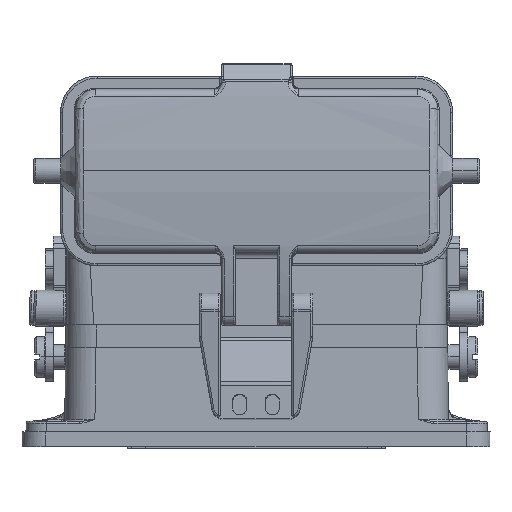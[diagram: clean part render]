
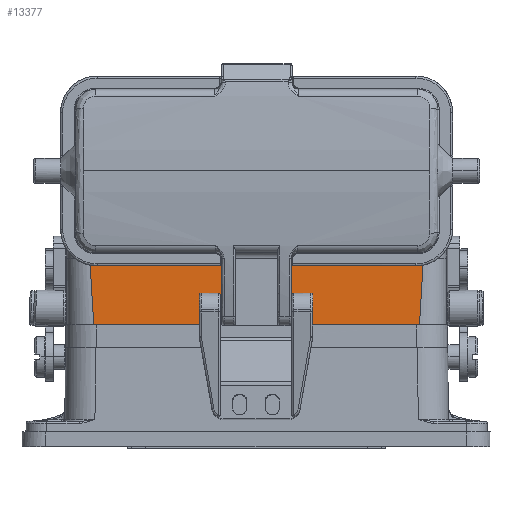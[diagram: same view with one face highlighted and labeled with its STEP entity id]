
A CAD part, top view. The second image highlights one B-rep face of the part: STEP entity #13377.
In plain terms, the highlighted planar face has unit normal (0, 0, 1) as drawn and (0, -1, 0) by its records, which use the part's own axes.
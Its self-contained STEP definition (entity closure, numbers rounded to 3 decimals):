
#4417 = EDGE_CURVE ( 'NONE', #152770, #174705, #165698, .T. ) ;
#5033 = VECTOR ( 'NONE', #39630, 1000. ) ;
#6439 = CARTESIAN_POINT ( 'NONE',  ( -46.498, 17.399, 53.299 ) ) ;
#6768 = CARTESIAN_POINT ( 'NONE',  ( 67.597, 17.399, 69.588 ) ) ;
#7146 = CARTESIAN_POINT ( 'NONE',  ( -13.819, 17.399, 63.96 ) ) ;
#8306 = CARTESIAN_POINT ( 'NONE',  ( 13.502, 17.399, 53.299 ) ) ;
#8938 = CARTESIAN_POINT ( 'NONE',  ( -13.872, 17.399, 64.917 ) ) ;
#9864 = CARTESIAN_POINT ( 'NONE',  ( -13.904, 17.399, 65.532 ) ) ;
#11699 = CARTESIAN_POINT ( 'NONE',  ( -13.668, 17.399, 61.445 ) ) ;
#13377 = ADVANCED_FACE ( 'NONE', ( #48001 ), #88619, .T. ) ;
#15317 = CARTESIAN_POINT ( 'NONE',  ( -13.408, 17.399, 57.381 ) ) ;
#21005 = CARTESIAN_POINT ( 'NONE',  ( -13.91, 17.399, 65.655 ) ) ;
#21107 = EDGE_CURVE ( 'NONE', #174705, #42428, #136515, .T. ) ;
#21623 = CARTESIAN_POINT ( 'NONE',  ( 67.597, 17.399, 69.588 ) ) ;
#23742 = CARTESIAN_POINT ( 'NONE',  ( -13.918, 17.399, 65.796 ) ) ;
#28271 = CARTESIAN_POINT ( 'NONE',  ( -13.669, 17.399, 61.464 ) ) ;
#33659 = ORIENTED_EDGE ( 'NONE', *, *, #55075, .F. ) ;
#36258 = CARTESIAN_POINT ( 'NONE',  ( 67.457, 17.399, 66.043 ) ) ;
#39630 = DIRECTION ( 'NONE',  ( 1., 0., 0. ) ) ;
#40274 = CARTESIAN_POINT ( 'NONE',  ( -13.431, 17.399, 57.736 ) ) ;
#42428 = VERTEX_POINT ( 'NONE', #59088 ) ;
#43012 = CARTESIAN_POINT ( 'NONE',  ( -13.137, 17.399, 53.299 ) ) ;
#48001 = FACE_OUTER_BOUND ( 'NONE', #152204, .T. ) ;
#48173 = B_SPLINE_CURVE_WITH_KNOTS ( 'NONE', 3,
 ( #6768, #36258, #89863, #121169, #65750 ),
 .UNSPECIFIED., .F., .F.,
 ( 4, 1, 4 ),
 ( 0., 0.652, 1. ),
 .UNSPECIFIED. ) ;
#52314 = CARTESIAN_POINT ( 'NONE',  ( -13.673, 17.399, 61.524 ) ) ;
#54133 = CARTESIAN_POINT ( 'NONE',  ( -13.454, 17.399, 58.094 ) ) ;
#55075 = EDGE_CURVE ( 'NONE', #152770, #116111, #48173, .T. ) ;
#56854 = CARTESIAN_POINT ( 'NONE',  ( -13.411, 17.399, 57.422 ) ) ;
#59088 = CARTESIAN_POINT ( 'NONE',  ( -13.137, 17.399, 53.299 ) ) ;
#60919 = DIRECTION ( 'NONE',  ( 0., 0., -1. ) ) ;
#61703 = ORIENTED_EDGE ( 'NONE', *, *, #128474, .T. ) ;
#65230 = CARTESIAN_POINT ( 'NONE',  ( -13.708, 17.399, 62.098 ) ) ;
#65750 = CARTESIAN_POINT ( 'NONE',  ( 66.641, 17.399, 53.299 ) ) ;
#66131 = CARTESIAN_POINT ( 'NONE',  ( -13.747, 17.399, 62.737 ) ) ;
#66391 = LINE ( 'NONE', #8306, #5033 ) ;
#66473 = AXIS2_PLACEMENT_3D ( 'NONE', #6439, #87701, #60919 ) ;
#67961 = CARTESIAN_POINT ( 'NONE',  ( -13.409, 17.399, 57.396 ) ) ;
#70704 = CARTESIAN_POINT ( 'NONE',  ( -13.219, 17.399, 54.488 ) ) ;
#79095 = CARTESIAN_POINT ( 'NONE',  ( -13.961, 17.399, 66.656 ) ) ;
#83649 = CARTESIAN_POINT ( 'NONE',  ( -13.413, 17.399, 57.462 ) ) ;
#84553 = CARTESIAN_POINT ( 'NONE',  ( -13.636, 17.399, 60.932 ) ) ;
#87701 = DIRECTION ( 'NONE',  ( 0., -1., 0. ) ) ;
#88619 = PLANE ( 'NONE',  #66473 ) ;
#89863 = CARTESIAN_POINT ( 'NONE',  ( 67.129, 17.399, 60.613 ) ) ;
#93877 = CARTESIAN_POINT ( 'NONE',  ( -14.094, 17.399, 69.588 ) ) ;
#94792 = CARTESIAN_POINT ( 'NONE',  ( -14.017, 17.399, 67.83 ) ) ;
#97552 = ORIENTED_EDGE ( 'NONE', *, *, #21107, .T. ) ;
#97891 = VECTOR ( 'NONE', #124219, 1000. ) ;
#110471 = CARTESIAN_POINT ( 'NONE',  ( -13.58, 17.399, 60.042 ) ) ;
#116111 = VERTEX_POINT ( 'NONE', #156783 ) ;
#121169 = CARTESIAN_POINT ( 'NONE',  ( 66.764, 17.399, 55.187 ) ) ;
#122463 = CARTESIAN_POINT ( 'NONE',  ( -13.688, 17.399, 61.771 ) ) ;
#122544 = CARTESIAN_POINT ( 'NONE',  ( -14.094, 17.399, 69.588 ) ) ;
#124219 = DIRECTION ( 'NONE',  ( -1., 0., 0. ) ) ;
#128474 = EDGE_CURVE ( 'NONE', #42428, #116111, #66391, .T. ) ;
#133535 = CARTESIAN_POINT ( 'NONE',  ( -13.907, 17.399, 65.594 ) ) ;
#135326 = CARTESIAN_POINT ( 'NONE',  ( -13.932, 17.399, 66.081 ) ) ;
#136186 = CARTESIAN_POINT ( 'NONE',  ( -46.498, 17.399, 69.588 ) ) ;
#136250 = CARTESIAN_POINT ( 'NONE',  ( -13.905, 17.399, 65.554 ) ) ;
#136515 = B_SPLINE_CURVE_WITH_KNOTS ( 'NONE', 3,
 ( #93877, #147351, #94792, #79095, #135326, #23742, #21005, #133535, #136250, #9864, #8938, #7146, #66131, #65230, #122463, #178606, #52314, #150986, #28271, #140788, #11699, #84553, #110471, #154612, #54133, #40274, #155538, #83649, #56854, #67961, #15317, #138066, #70704, #43012 ),
 .UNSPECIFIED., .F., .F.,
 ( 4, 1, 1, 1, 1, 1, 2, 2, 1, 1, 1, 1, 1, 1, 1, 2, 2, 1, 1, 1, 1, 1, 1, 2, 2, 4 ),
 ( 0., 0.125, 0.188, 0.219, 0.234, 0.242, 0.246, 0.25, 0.375, 0.438, 0.469, 0.484, 0.492, 0.496, 0.498, 0.499, 0.5, 0.625, 0.688, 0.719, 0.734, 0.742, 0.746, 0.748, 0.75, 1. ),
 .UNSPECIFIED. ) ;
#138066 = CARTESIAN_POINT ( 'NONE',  ( -13.309, 17.399, 55.844 ) ) ;
#140788 = CARTESIAN_POINT ( 'NONE',  ( -13.668, 17.399, 61.453 ) ) ;
#147351 = CARTESIAN_POINT ( 'NONE',  ( -14.064, 17.399, 68.874 ) ) ;
#150055 = ORIENTED_EDGE ( 'NONE', *, *, #4417, .T. ) ;
#150986 = CARTESIAN_POINT ( 'NONE',  ( -13.67, 17.399, 61.482 ) ) ;
#152204 = EDGE_LOOP ( 'NONE', ( #150055, #97552, #61703, #33659 ) ) ;
#152770 = VERTEX_POINT ( 'NONE', #21623 ) ;
#154612 = CARTESIAN_POINT ( 'NONE',  ( -13.499, 17.399, 58.78 ) ) ;
#155538 = CARTESIAN_POINT ( 'NONE',  ( -13.419, 17.399, 57.554 ) ) ;
#156783 = CARTESIAN_POINT ( 'NONE',  ( 66.641, 17.399, 53.299 ) ) ;
#165698 = LINE ( 'NONE', #136186, #97891 ) ;
#174705 = VERTEX_POINT ( 'NONE', #122544 ) ;
#178606 = CARTESIAN_POINT ( 'NONE',  ( -13.678, 17.399, 61.607 ) ) ;
